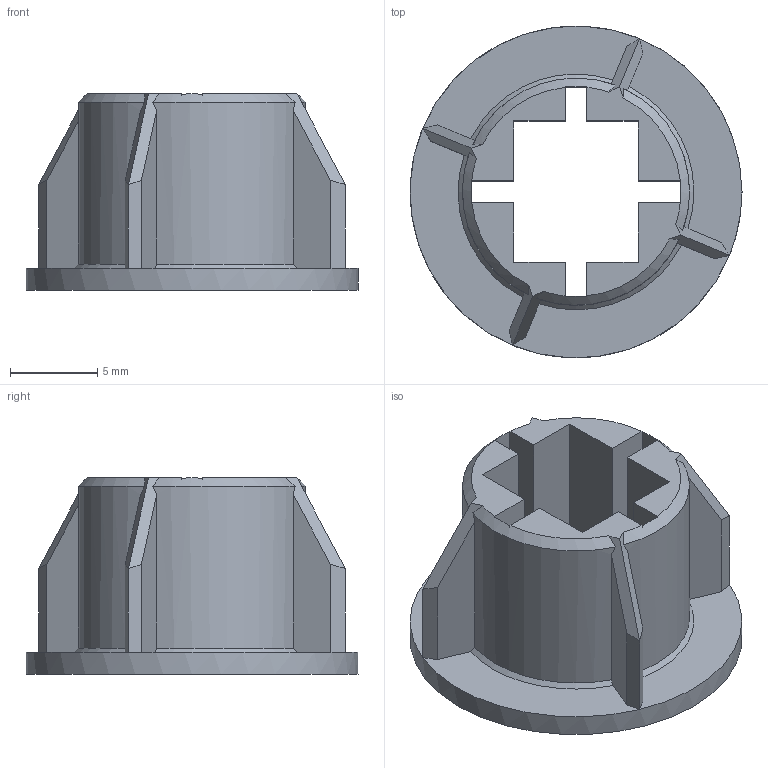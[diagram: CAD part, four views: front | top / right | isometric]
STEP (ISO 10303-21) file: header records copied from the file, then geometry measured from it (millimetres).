
FILE_DESCRIPTION(/* description */ (''),/* implementation_level */ '2;1');
FILE_NAME(/* name */ 'MollyCollar_13mm_V5.stp',/* time_stamp */ '2025-11-25T10:50:29-05:00',/* author */ (''),/* organization */ (''),/* preprocessor_version */ 'ST-DEVELOPER v20',/* originating_system */ 'SIEMENS PLM Software NX2406.7001',/* authorisation */ '');
FILE_SCHEMA (('AUTOMOTIVE_DESIGN { 1 0 10303 214 3 1 1 1 }'));
Length unit declared in the file: millimetre
Products named in the file (1): MollyCollar_13mm_objects
Bounding box: 19 x 19 x 11.25 mm (x, y, z)
Volume: 898.7 mm3; surface area: 1570.8 mm2
Topology: 1 solids, 1 shells, 69 faces, 188 edges, 121 vertices
Faces by surface type: plane 46, cone 9, bspline 8, cylinder 6
Full cylindrical faces by diameter (mm): 13.2 x1, 19 x1
Entity records: 2290 total; most frequent: CARTESIAN_POINT 658, ORIENTED_EDGE 368, DIRECTION 272, EDGE_CURVE 184, VERTEX_POINT 120, LINE 92, VECTOR 92, AXIS2_PLACEMENT_3D 90
